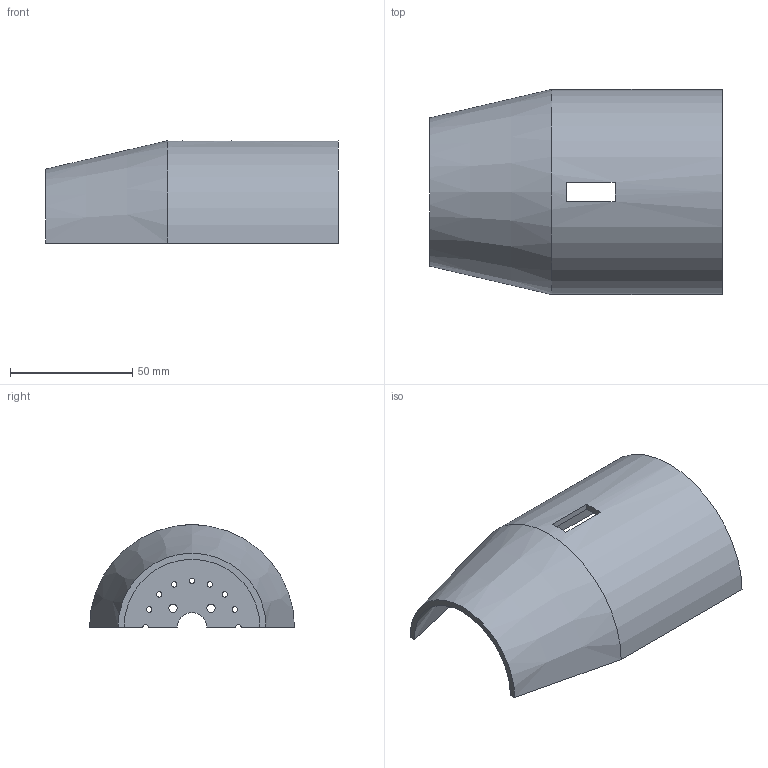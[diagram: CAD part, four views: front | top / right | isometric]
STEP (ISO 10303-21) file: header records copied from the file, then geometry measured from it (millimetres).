
FILE_DESCRIPTION(('Open CASCADE Model'),'2;1');
FILE_NAME('Open CASCADE Shape Model','2026-10-25T05:18:01',('Author'),( 'Open CASCADE'),'Open CASCADE STEP processor 7.9','Open CASCADE 7.9' ,'Unknown');
FILE_SCHEMA(('AUTOMOTIVE_DESIGN { 1 0 10303 214 1 1 1 1 }'));
Length unit declared in the file: millimetre
Products named in the file (1): Open CASCADE STEP translator 7.9 2
Bounding box: 120 x 84 x 42 mm (x, y, z)
Volume: 42751.7 mm3; surface area: 34948.8 mm2
Topology: 1 solids, 1 shells, 27 faces, 75 edges, 50 vertices
Faces by surface type: cylinder 14, plane 11, cone 2
Full cylindrical faces by diameter (mm): 2.2 x7, 3.4 x2
Entity records: 1866 total; most frequent: CARTESIAN_POINT 363, DIRECTION 265, ORIENTED_EDGE 150, PCURVE 150, DEFINITIONAL_REPRESENTATION 150, LINE 111, VECTOR 111, EDGE_CURVE 75
